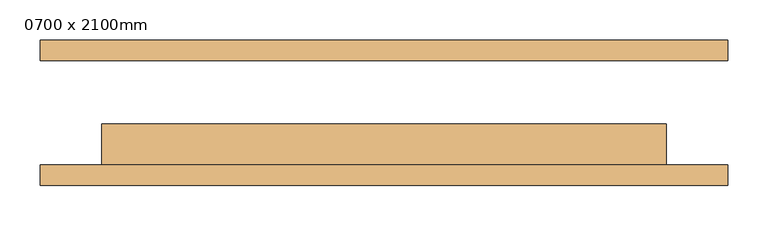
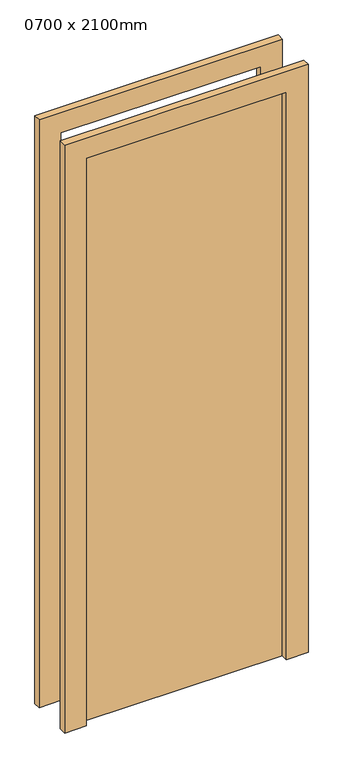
"""IFC4 building model written with IfcOpenShell, lengths in millimetres: door geometry, M_Folha única : 0700 x 2100mm."""

from ifc_helpers import new_model, si_unit, frame, origin, origin_with_axes, place, context, project, spatial, polyline, outline, extrude, source, transform, mapped, element, save


def door_0700_x_2100mm_2c9cfd51(model_context):
    return source(origin(), model_context, "Body", "SweptSolid", [
        extrude(outline(polyline([(2176.0, -426.0), (0.0, -426.0), (0.0, -350.0), (2100.0, -350.0), (2100.0, 350.0), (0.0, 350.0), (0.0, 426.0), (2176.0, 426.0), (2176.0, -426.0)])), frame((0.0, -90.0, 0.0), z_axis=(0.0, 1.0, 0.0), x_axis=(0.0, 0.0, 1.0)), (0.0, 0.0, 1.0), 25.0),
        extrude(outline(polyline([(2176.0, 426.0), (2176.0, -426.0), (0.0, -426.0), (0.0, -350.0), (2100.0, -350.0), (2100.0, 350.0), (0.0, 350.0), (0.0, 426.0), (2176.0, 426.0)])), frame((0.0, 65.0, 0.0), z_axis=(0.0, 1.0, 0.0), x_axis=(0.0, 0.0, 1.0)), (0.0, 0.0, 1.0), 25.0),
        extrude(outline(polyline([(350.0, -14.0), (350.0, -65.0), (-350.0, -65.0), (-350.0, -14.0), (350.0, -14.0)])), origin_with_axes(), (0.0, 0.0, 1.0), 2100.0),
    ])


if __name__ == "__main__":
    model = new_model("IFC4")
    model_context = context("Model", 3, world=origin())
    ifc_project = project(units=[si_unit("LENGTHUNIT", "METRE", prefix="MILLI")], contexts=[model_context])
    site = spatial("IfcSite", under=ifc_project)
    building = spatial("IfcBuilding", under=site)
    placement = place(None, origin())
    door_0700_x_2100mm_shape = door_0700_x_2100mm_2c9cfd51(model_context)
    element("IfcDoor", 1, ObjectType="M_Folha única : 0700 x 2100mm", at=placement, inside=building, context=model_context, shape_type="MappedRepresentation", body=[
        mapped(door_0700_x_2100mm_shape, transform((0.0, 0.0, 0.0), x_axis=(1.0, 0.0, 0.0), y_axis=(0.0, 1.0, 0.0), z_axis=(0.0, 0.0, 1.0))),
    ])
    save(model, "model.ifc")
